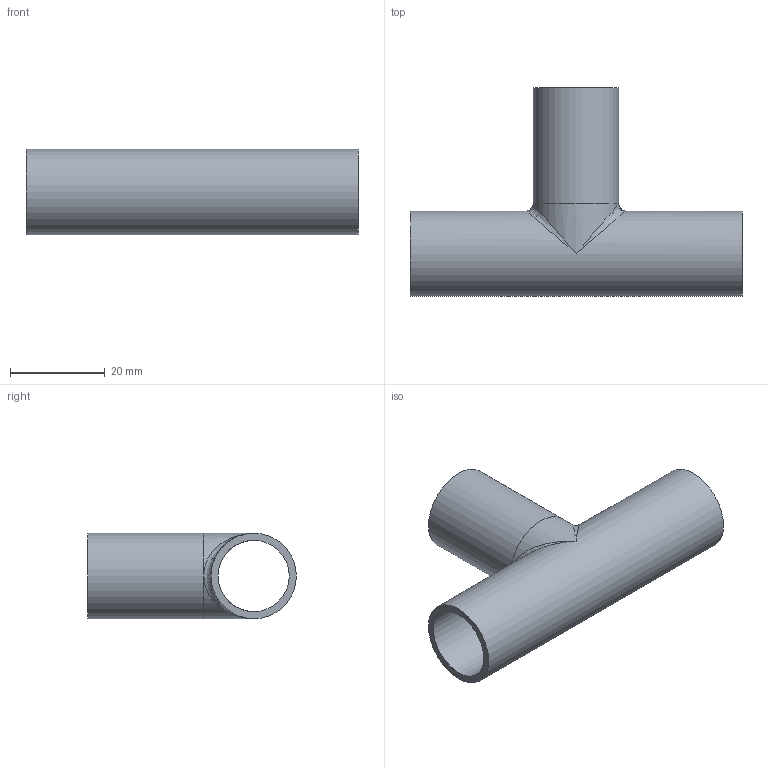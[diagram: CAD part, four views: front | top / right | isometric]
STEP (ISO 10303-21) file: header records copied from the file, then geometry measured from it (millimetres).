
FILE_DESCRIPTION(/* description */ ('DOCKWEILER AG - 19306 Germany - An der Autobahn 10/20'),/* implementation_level */ '2;1');
FILE_NAME(/* name */ '\\Dwgfs01\cad\CAD\Projekte\N0010_001_001_001\T_18x1,5_18x1,5_L70_l35_V00.ipt.stp',/* time_stamp */ '2014-07-04T12:11:46+02:00',/* author */ ('DOCKWEILER AG - 19306 Germany - An der Autobahn 10/20'),/* organization */ ('DOCKWEILER AG - 19306 Germany - An der Autobahn 10/20'),/* preprocessor_version */ 'ST-DEVELOPER v15.6',/* originating_system */ 'Autodesk Inventor 2015',/* authorisation */ '');
FILE_SCHEMA (('CONFIG_CONTROL_DESIGN'));
Length unit declared in the file: millimetre
Products named in the file (1): T_18x1,5_18x1,5_L70_l35_V00
Bounding box: 70 x 44 x 18 mm (x, y, z)
Volume: 7347 mm3; surface area: 10152.5 mm2
Topology: 2 solids, 2 shells, 16 faces, 41 edges, 20 vertices
Faces by surface type: cylinder 7, plane 5, bspline 4
Full cylindrical faces by diameter (mm): 15 x3, 18 x2
Entity records: 1325 total; most frequent: CARTESIAN_POINT 989, DIRECTION 68, ORIENTED_EDGE 42, AXIS2_PLACEMENT_3D 34, EDGE_LOOP 28, EDGE_CURVE 21, STYLED_ITEM 18, FACE_OUTER_BOUND 16
